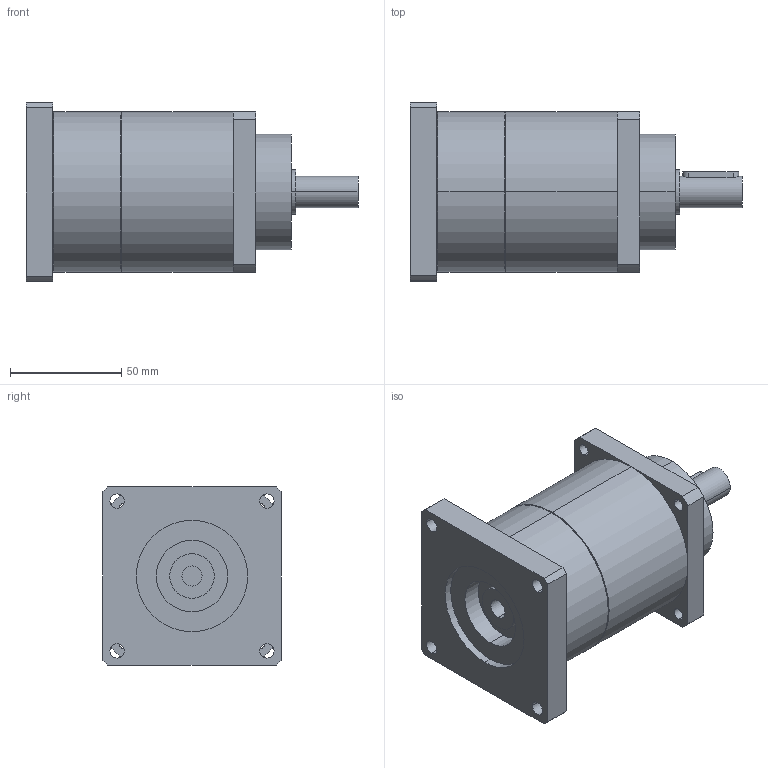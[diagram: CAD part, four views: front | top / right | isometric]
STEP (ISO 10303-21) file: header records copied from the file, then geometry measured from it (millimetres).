
FILE_DESCRIPTION(('CoCreate Modeling STEP Export'),'2;1');
FILE_NAME('GPT75_ig-9-12-16-20-25-28-35-40-50-70-100_14_B5T_9_P27.stp','2014-08-27T13:44:17',(''),(''),'CoCreate Modeling STEP processor for AP214 (Solid Model)','CoCreate Modeling 16.00C 25-Feb-2009 (C) Parametric Technology GmbH','');
FILE_SCHEMA(('AUTOMOTIVE_DESIGN { 1 0 10303 214 1 1 1 1 }'));
Length unit declared in the file: millimetre
Products named in the file (2): GPT75_ig-9-12-16-20-25-28-35-40-50-70-100_14_B5T_9_P27
Assembly tree (1 placements, depth 2):
  GPT75_ig-9-12-16-20-25-28-35-40-50-70-100_14_B5T_9_P27
    GPT75_ig-9-12-16-20-25-28-35-40-50-70-100_14_B5T_9_P27
Bounding box: 149 x 80 x 80 mm (x, y, z)
Volume: 479771.1 mm3; surface area: 48205.6 mm2
Topology: 1 solids, 1 shells, 77 faces, 191 edges, 126 vertices
Faces by surface type: cylinder 46, plane 27, cone 4
Entity records: 2469 total; most frequent: CARTESIAN_POINT 716, ORIENTED_EDGE 382, DIRECTION 320, EDGE_CURVE 191, VERTEX_POINT 126, AXIS2_PLACEMENT_3D 118, EDGE_LOOP 103, VECTOR 84
